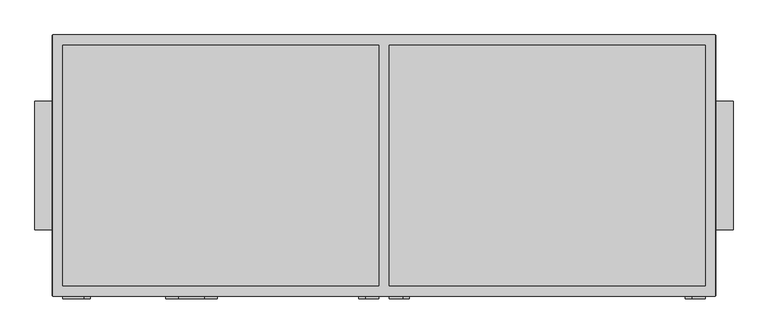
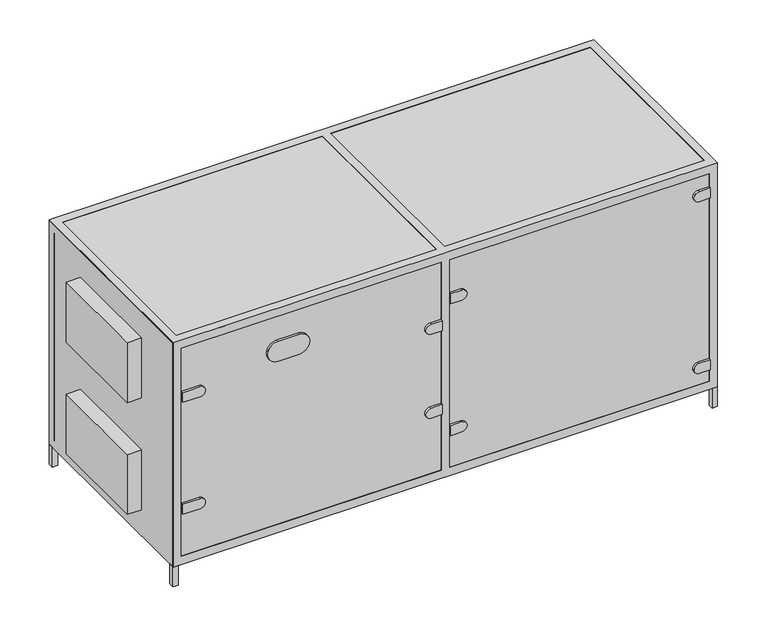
"""IFC4 building model written with IfcOpenShell, lengths in millimetres: proxy geometry, AVS 2200...3800-S-RC(RG)-R : AVS 3800-S-RC-R."""

from ifc_helpers import new_model, si_unit, point, frame, frame_2d, origin, origin_with_axes, place, context, project, spatial, polyline, circle_curve, trimmed, segment, composite_curve, outline, extrude, faceted_brep, source, transform, mapped, element, save


def mechanical_equipment_2523bcf0(model_context):
    return source(origin(), model_context, "Body", "SolidModel", [
        extrude(outline(polyline([(1265.0, 507.0), (1290.0, 507.0), (1290.0, 482.0), (1265.0, 482.0), (1265.0, 507.0)])), origin_with_axes(), (0.0, 0.0, 1.0), 100.0),
        extrude(outline(polyline([(1265.0, -507.0), (1265.0, -482.0), (1290.0, -482.0), (1290.0, -507.0), (1265.0, -507.0)])), origin_with_axes(), (0.0, 0.0, 1.0), 100.0),
        extrude(outline(polyline([(-1290.0, 482.0), (-1290.0, 507.0), (-1265.0, 507.0), (-1265.0, 482.0), (-1290.0, 482.0)])), origin_with_axes(), (0.0, 0.0, 1.0), 100.0),
        extrude(outline(polyline([(-1290.0, -482.0), (-1265.0, -482.0), (-1265.0, -507.0), (-1290.0, -507.0), (-1290.0, -482.0)])), origin_with_axes(), (0.0, 0.0, 1.0), 100.0),
        faceted_brep([(1289.0, 508.0, 1222.0), (-1289.0, 508.0, 1222.0), (-1289.0, -508.0, 1222.0), (1289.0, -508.0, 1222.0), (1250.0, 467.0, 1222.0), (1250.0, -467.0, 1222.0), (20.0, -467.0, 1222.0), (20.0, 467.0, 1222.0), (-1250.0, 467.0, 1222.0), (-20.0, 467.0, 1222.0), (-20.0, -467.0, 1222.0), (-1250.0, -467.0, 1222.0), (1289.0, 508.0, 99.0), (1289.0, -508.0, 99.0), (-1289.0, -508.0, 99.0), (-1289.0, 508.0, 99.0), (1250.0, -467.0, 99.0), (1250.0, 467.0, 99.0), (20.0, 467.0, 99.0), (20.0, -467.0, 99.0), (-20.0, 467.0, 99.0), (-1250.0, 467.0, 99.0), (-1250.0, -467.0, 99.0), (-20.0, -467.0, 99.0), (-20.0, 508.0, 1181.0), (-1250.0, 508.0, 1181.0), (-1250.0, 508.0, 140.0), (-20.0, 508.0, 140.0), (1250.0, 508.0, 140.0), (1250.0, 508.0, 1181.0), (20.0, 508.0, 1181.0), (20.0, 508.0, 140.0), (-1289.0, -467.0, 1181.0), (-1289.0, -467.0, 140.0), (-1289.0, 467.0, 140.0), (-1289.0, 467.0, 1181.0), (-1250.0, -508.0, 1181.0), (-20.0, -508.0, 1181.0), (-20.0, -508.0, 140.0), (-1250.0, -508.0, 140.0), (1250.0, -508.0, 1181.0), (1250.0, -508.0, 140.0), (20.0, -508.0, 140.0), (20.0, -508.0, 1181.0), (1289.0, -467.0, 140.0), (1289.0, -467.0, 1181.0), (1289.0, 467.0, 1181.0), (1289.0, 467.0, 140.0), (-1250.0, 467.0, 1181.0), (-20.0, 467.0, 1181.0), (-20.0, 467.0, 140.0), (-1250.0, 467.0, 140.0), (-20.0, -467.0, 1181.0), (-1250.0, -467.0, 1181.0), (-1250.0, -467.0, 140.0), (-20.0, -467.0, 140.0), (1250.0, 467.0, 1181.0), (1250.0, -467.0, 1181.0), (1250.0, -467.0, 140.0), (1250.0, 467.0, 140.0), (20.0, 467.0, 1181.0), (20.0, -467.0, 1181.0), (20.0, -467.0, 140.0), (20.0, 467.0, 140.0)], [[[0, 1, 2, 3], [4, 5, 6, 7], [8, 9, 10, 11]], [[12, 13, 14, 15], [16, 17, 18, 19], [20, 21, 22, 23]], [[1, 0, 12, 15], [24, 25, 26, 27], [28, 29, 30, 31]], [[2, 1, 15, 14], [32, 33, 34, 35]], [[3, 2, 14, 13], [36, 37, 38, 39], [40, 41, 42, 43]], [[0, 3, 13, 12], [44, 45, 46, 47]], [[9, 8, 48, 49]], [[21, 20, 50, 51]], [[11, 10, 52, 53]], [[23, 22, 54, 55]], [[5, 4, 56, 57]], [[17, 16, 58, 59]], [[40, 57, 58, 41]], [[56, 29, 28, 59]], [[35, 48, 53, 32]], [[45, 57, 56, 46]], [[49, 60, 61, 52]], [[51, 34, 33, 54]], [[47, 59, 58, 44]], [[55, 62, 63, 50]], [[36, 53, 52, 37]], [[24, 49, 48, 25]], [[54, 39, 38, 55]], [[50, 27, 26, 51]], [[32, 53, 54, 33]], [[52, 61, 62, 55]], [[44, 58, 57, 45]], [[48, 35, 34, 51]], [[60, 49, 50, 63]], [[59, 47, 46, 56]], [[8, 11, 53, 48]], [[22, 21, 51, 54]], [[53, 36, 39, 54]], [[25, 48, 51, 26]], [[10, 9, 49, 52]], [[20, 23, 55, 50]], [[37, 52, 55, 38]], [[49, 24, 27, 50]], [[4, 7, 60, 56]], [[18, 17, 59, 63]], [[7, 6, 61, 60]], [[19, 18, 63, 62]], [[30, 60, 63, 31]], [[61, 43, 42, 62]], [[57, 40, 43, 61]], [[29, 56, 60, 30]], [[41, 58, 62, 42]], [[59, 28, 31, 63]], [[6, 5, 57, 61]], [[16, 19, 62, 58]]]),
        extrude(outline(polyline([(-1290.0, 507.0), (1290.0, 507.0), (1290.0, -507.0), (-1290.0, -507.0), (-1290.0, 507.0)])), frame((0.0, 0.0, 100.0), z_axis=(0.0, 0.0, 1.0), x_axis=(1.0, 0.0, 0.0)), (0.0, 0.0, 1.0), 1121.0),
        extrude(outline(composite_curve([segment(polyline([(965.75, -1167.2895396), (965.75, -1250.0), (915.75, -1250.0), (915.75, -1167.2895396)]), True, "CONTINUOUS"), segment(trimmed(circle_curve(frame_2d((940.75, -1167.2895396)), 25.0), [point((915.75, -1167.2895396))], [point((965.75, -1167.2895396))], False, "CARTESIAN"), True, "CONTINUOUS")], self_intersect=False)), frame((0.0, -518.0, 0.0), z_axis=(0.0, 1.0, 0.0), x_axis=(0.0, 0.0, 1.0)), (0.0, 0.0, 1.0), 11.0),
        extrude(outline(composite_curve([segment(polyline([(405.25, -1167.2895396), (405.25, -1250.0), (355.25, -1250.0), (355.25, -1167.2895396)]), True, "CONTINUOUS"), segment(trimmed(circle_curve(frame_2d((380.25, -1167.2895396)), 25.0), [point((355.25, -1167.2895396))], [point((405.25, -1167.2895396))], False, "CARTESIAN"), True, "CONTINUOUS")], self_intersect=False)), frame((0.0, -518.0, 0.0), z_axis=(0.0, 1.0, 0.0), x_axis=(0.0, 0.0, 1.0)), (0.0, 0.0, 1.0), 11.0),
        extrude(outline(composite_curve([segment(trimmed(circle_curve(frame_2d((870.75, -72.7104604)), 25.0), [point((895.75, -72.7104604))], [point((845.75, -72.7104604))], False, "CARTESIAN"), True, "CONTINUOUS"), segment(polyline([(845.75, -72.7104604), (845.75, -20.0), (895.75, -20.0), (895.75, -72.7104604)]), True, "CONTINUOUS")], self_intersect=False)), frame((0.0, -518.0, 0.0), z_axis=(0.0, 1.0, 0.0), x_axis=(0.0, 0.0, 1.0)), (0.0, 0.0, 1.0), 11.0),
        extrude(outline(composite_curve([segment(polyline([(425.25, -72.7104604), (425.25, -20.0), (475.25, -20.0), (475.25, -72.7104604)]), True, "CONTINUOUS"), segment(trimmed(circle_curve(frame_2d((450.25, -72.7104604)), 25.0), [point((475.25, -72.7104604))], [point((425.25, -72.7104604))], False, "CARTESIAN"), True, "CONTINUOUS")], self_intersect=False)), frame((0.0, -518.0, 0.0), z_axis=(0.0, 1.0, 0.0), x_axis=(0.0, 0.0, 1.0)), (0.0, 0.0, 1.0), 11.0),
        extrude(outline(composite_curve([segment(trimmed(circle_curve(frame_2d((1090.75, 1197.2895396)), 25.0), [point((1115.75, 1197.2895396))], [point((1065.75, 1197.2895396))], False, "CARTESIAN"), True, "CONTINUOUS"), segment(polyline([(1065.75, 1197.2895396), (1065.75, 1250.0), (1115.75, 1250.0), (1115.75, 1197.2895396)]), True, "CONTINUOUS")], self_intersect=False)), frame((0.0, -518.0, 0.0), z_axis=(0.0, 1.0, 0.0), x_axis=(0.0, 0.0, 1.0)), (0.0, 0.0, 1.0), 11.0),
        extrude(outline(composite_curve([segment(polyline([(205.25, 1197.2895396), (205.25, 1250.0), (255.25, 1250.0), (255.25, 1197.2895396)]), True, "CONTINUOUS"), segment(trimmed(circle_curve(frame_2d((230.25, 1197.2895396)), 25.0), [point((255.25, 1197.2895396))], [point((205.25, 1197.2895396))], False, "CARTESIAN"), True, "CONTINUOUS")], self_intersect=False)), frame((0.0, -518.0, 0.0), z_axis=(0.0, 1.0, 0.0), x_axis=(0.0, 0.0, 1.0)), (0.0, 0.0, 1.0), 11.0),
        extrude(outline(composite_curve([segment(polyline([(1015.75, 72.7104604), (1015.75, 20.0), (965.75, 20.0), (965.75, 72.7104604)]), True, "CONTINUOUS"), segment(trimmed(circle_curve(frame_2d((990.75, 72.7104604)), 25.0), [point((965.75, 72.7104604))], [point((1015.75, 72.7104604))], False, "CARTESIAN"), True, "CONTINUOUS")], self_intersect=False)), frame((0.0, -518.0, 0.0), z_axis=(0.0, 1.0, 0.0), x_axis=(0.0, 0.0, 1.0)), (0.0, 0.0, 1.0), 11.0),
        extrude(outline(composite_curve([segment(trimmed(circle_curve(frame_2d((330.25, 72.7104604)), 25.0), [point((305.25, 72.7104604))], [point((355.25, 72.7104604))], False, "CARTESIAN"), True, "CONTINUOUS"), segment(polyline([(355.25, 72.7104604), (355.25, 20.0), (305.25, 20.0), (305.25, 72.7104604)]), True, "CONTINUOUS")], self_intersect=False)), frame((0.0, -518.0, 0.0), z_axis=(0.0, 1.0, 0.0), x_axis=(0.0, 0.0, 1.0)), (0.0, 0.0, 1.0), 11.0),
        extrude(outline(composite_curve([segment(polyline([(1064.7031077, -698.4249776), (1064.7031077, -798.4249776)]), True, "CONTINUOUS"), segment(trimmed(circle_curve(frame_2d((1014.7031077, -798.4249776)), 50.0), [point((1064.7031077, -798.4249776))], [point((964.7031077, -798.4249776))], False, "CARTESIAN"), True, "CONTINUOUS"), segment(polyline([(964.7031077, -798.4249776), (964.7031077, -698.4249776)]), True, "CONTINUOUS"), segment(trimmed(circle_curve(frame_2d((1014.7031077, -698.4249776)), 50.0), [point((964.7031077, -698.4249776))], [point((1064.7031077, -698.4249776))], False, "CARTESIAN"), True, "CONTINUOUS")], self_intersect=False)), frame((0.0, -518.0, 0.0), z_axis=(0.0, 1.0, 0.0), x_axis=(0.0, 0.0, 1.0)), (0.0, 0.0, 1.0), 11.0),
        extrude(outline(polyline([(-1358.0, -250.0), (-1358.0, 250.0), (-1290.0, 250.0), (-1290.0, -250.0), (-1358.0, -250.0)])), frame((0.0, 0.0, 790.75), z_axis=(0.0, 0.0, 1.0), x_axis=(1.0, 0.0, 0.0)), (0.0, 0.0, 1.0), 300.0),
        extrude(outline(polyline([(-1358.0, -250.0), (-1358.0, 250.0), (-1290.0, 250.0), (-1290.0, -250.0), (-1358.0, -250.0)])), frame((0.0, 0.0, 230.25), z_axis=(0.0, 0.0, 1.0), x_axis=(1.0, 0.0, 0.0)), (0.0, 0.0, 1.0), 300.0),
        extrude(outline(polyline([(1358.0, 250.0), (1358.0, -250.0), (1290.0, -250.0), (1290.0, 250.0), (1358.0, 250.0)])), frame((0.0, 0.0, 790.75), z_axis=(0.0, 0.0, 1.0), x_axis=(1.0, 0.0, 0.0)), (0.0, 0.0, 1.0), 300.0),
        extrude(outline(polyline([(1358.0, 250.0), (1358.0, -250.0), (1290.0, -250.0), (1290.0, 250.0), (1358.0, 250.0)])), frame((0.0, 0.0, 230.25), z_axis=(0.0, 0.0, 1.0), x_axis=(1.0, 0.0, 0.0)), (0.0, 0.0, 1.0), 300.0),
    ])


if __name__ == "__main__":
    model = new_model("IFC4")
    model_context = context("Model", 3, world=origin())
    ifc_project = project(units=[si_unit("LENGTHUNIT", "METRE", prefix="MILLI")], contexts=[model_context])
    site = spatial("IfcSite", under=ifc_project)
    building = spatial("IfcBuilding", under=site)
    placement = place(None, origin())
    mechanical_equipment_shape = mechanical_equipment_2523bcf0(model_context)
    element("IfcBuildingElementProxy", 1, Name="AVS 2200...3800-S-RC(RG)-R : AVS 3800-S-RC-R", ObjectType="AVS 2200...3800-S-RC(RG)-R : AVS 3800-S-RC-R", at=placement, inside=building, context=model_context, shape_type="MappedRepresentation", body=[
        mapped(mechanical_equipment_shape, transform((0.0, 0.0, 0.0), x_axis=(1.0, 0.0, 0.0), y_axis=(0.0, 1.0, 0.0), z_axis=(0.0, 0.0, 1.0))),
    ])
    save(model, "model.ifc")
